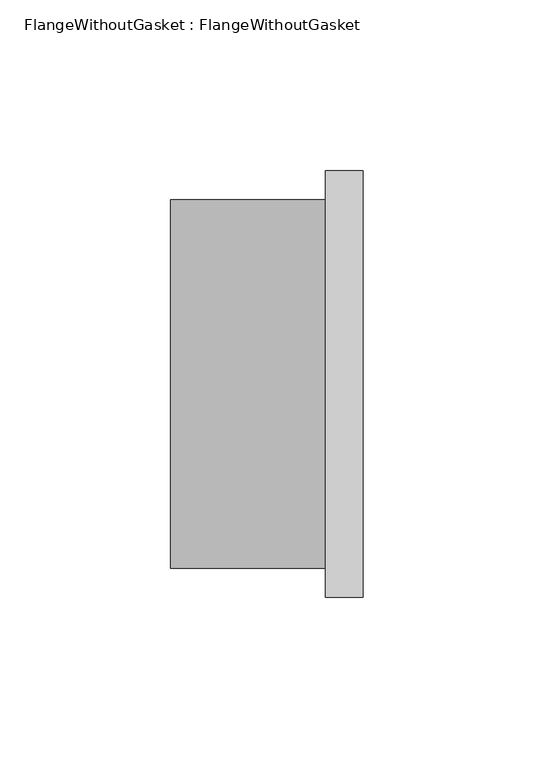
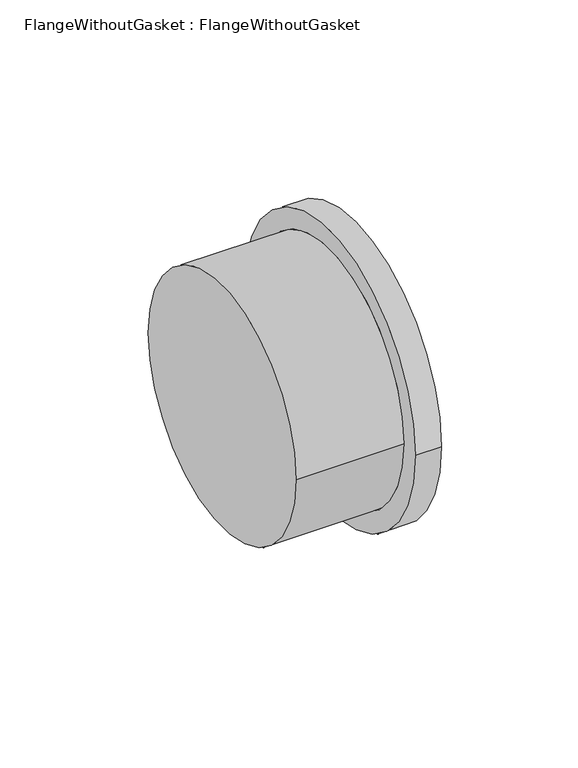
"""IFC4 building model written with IfcOpenShell, lengths in millimetres: pipe fitting geometry, FlangeWithoutGasket : FlangeWithoutGasket."""

from ifc_helpers import new_model, si_unit, frame, origin, place, context, project, spatial, circle_curve, source, transform, mapped, element, save
from ifc_brep_helpers import plane_surface, cylinder_surface, advanced_brep


def flangewithoutgasket_flangewithoutgasket_a3025326(model_context):
    return source(origin(), model_context, "Body", "AdvancedBrep", [
        advanced_brep(
        [(28.25, 62.5, 0.0), (28.25, -62.5, 0.0), (17.25, 62.5, 0.0), (17.25, -62.5, 0.0), (17.25, 54.0, 0.0), (17.25, -54.0, 0.0), (-28.25, -54.0, 0.0), (-28.25, 54.0, 0.0)],
        [
            (0, 1, circle_curve(frame((28.25, 0.0, 0.0), z_axis=(1.0, 0.0, 0.0), x_axis=(0.0, -1.0, 0.0)), 62.5)),
            (1, 0, circle_curve(frame((28.25, 0.0, 0.0), z_axis=(1.0, 0.0, 0.0), x_axis=(0.0, -1.0, 0.0)), 62.5)),
            (2, 3, circle_curve(frame((17.25, 0.0, 0.0), z_axis=(-1.0, 0.0, 0.0), x_axis=(0.0, -1.0, 0.0)), 62.5)),
            (3, 2, circle_curve(frame((17.25, 0.0, 0.0), z_axis=(-1.0, 0.0, 0.0), x_axis=(0.0, -1.0, 0.0)), 62.5)),
            (4, 5, circle_curve(frame((17.25, 0.0, 0.0), z_axis=(1.0, 0.0, 0.0), x_axis=(0.0, 1.0, 0.0)), 54.0)),
            (5, 4, circle_curve(frame((17.25, 0.0, 0.0), z_axis=(1.0, 0.0, 0.0), x_axis=(0.0, 1.0, 0.0)), 54.0)),
            (0, 2),
            (3, 1),
            (6, 7, circle_curve(frame((-28.25, 0.0, 0.0), z_axis=(-1.0, 0.0, 0.0), x_axis=(0.0, 1.0, 0.0)), 54.0)),
            (7, 6, circle_curve(frame((-28.25, 0.0, 0.0), z_axis=(-1.0, 0.0, 0.0), x_axis=(0.0, 1.0, 0.0)), 54.0)),
            (6, 5),
            (4, 7),
        ],
        [
            plane_surface(frame((28.25, 0.0, 0.0), z_axis=(1.0, 0.0, 0.0), x_axis=(0.0, 0.0, 1.0))),
            plane_surface(frame((17.25, 0.0, 0.0), z_axis=(-1.0, 0.0, 0.0), x_axis=(0.0, 0.0, 1.0))),
            cylinder_surface(frame((28.25, 0.0, 0.0), z_axis=(1.0, 0.0, 0.0), x_axis=(0.0, -1.0, 0.0)), 62.5),
            plane_surface(frame((-28.25, 0.0, 0.0), z_axis=(-1.0, 0.0, 0.0), x_axis=(0.0, 0.0, 1.0))),
            cylinder_surface(frame((-28.25, 0.0, 0.0), z_axis=(-1.0, 0.0, 0.0), x_axis=(0.0, 1.0, 0.0)), 54.0),
        ],
        [
            (0, [[1, 2]]),
            (1, [[3, 4], [5, 6]]),
            (2, [[-1, 7, -4, 8]]),
            (2, [[-2, -8, -3, -7]]),
            (3, [[9, 10]]),
            (4, [[-9, 11, -5, 12]]),
            (4, [[-10, -12, -6, -11]]),
        ],
    ),
    ])


if __name__ == "__main__":
    model = new_model("IFC4")
    model_context = context("Model", 3, world=origin())
    ifc_project = project(units=[si_unit("LENGTHUNIT", "METRE", prefix="MILLI")], contexts=[model_context])
    site = spatial("IfcSite", under=ifc_project)
    building = spatial("IfcBuilding", under=site)
    placement = place(None, origin())
    flangewithoutgasket_flangewithoutgasket_shape = flangewithoutgasket_flangewithoutgasket_a3025326(model_context)
    element("IfcPipeFitting", 1, ObjectType="FlangeWithoutGasket : FlangeWithoutGasket", at=placement, inside=building, context=model_context, shape_type="MappedRepresentation", body=[
        mapped(flangewithoutgasket_flangewithoutgasket_shape, transform((0.0, 0.0, 0.0), x_axis=(1.0, 0.0, 0.0), y_axis=(0.0, 1.0, 0.0), z_axis=(0.0, 0.0, 1.0))),
    ])
    save(model, "model.ifc")
